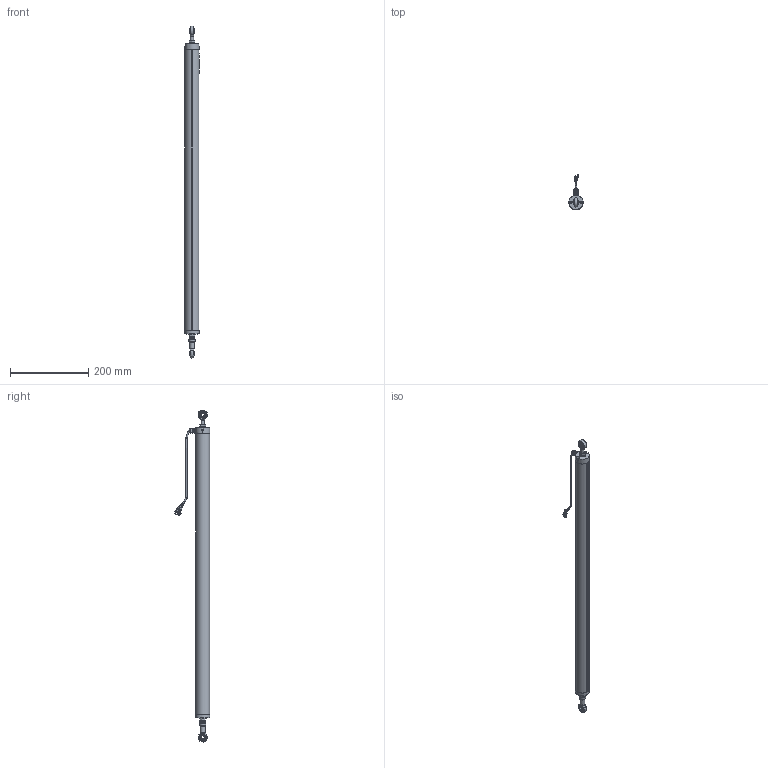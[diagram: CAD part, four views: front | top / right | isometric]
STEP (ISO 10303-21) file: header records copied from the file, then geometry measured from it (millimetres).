
FILE_DESCRIPTION(/* description */ (''),/* implementation_level */ '2;1');
FILE_NAME(/* name */ 'C:\Users\Justin\Documents\CAD\The Sensor Connection\LPPS\LPPS-36B Series\3D\LPPS-36B-650\LPPS 36B-650 Assembly.stp',/* time_stamp */ '2020-09-21T10:21:59-04:00',/* author */ ('Justin'),/* organization */ (''),/* preprocessor_version */ 'ST-DEVELOPER v18.1',/* originating_system */ 'Autodesk Inventor 2021',/* authorisation */ '');
FILE_SCHEMA (('AUTOMOTIVE_DESIGN { 1 0 10303 214 3 1 1 }'));
Length unit declared in the file: inch
Products named in the file (3): LPPS 36B-650 Assembly; LPPS 36B-650 Shaft_Shrinkwrap; LPPS 36B-650_Shrinkwrap
Assembly tree (2 placements, depth 2):
  LPPS 36B-650 Assembly
    LPPS 36B-650 Shaft_Shrinkwrap
    LPPS 36B-650_Shrinkwrap
Bounding box: 36.05 x 90.87 x 849.86 mm (x, y, z)
Volume: 249766.4 mm3; surface area: 212052.2 mm2
Topology: 27 solids, 27 shells, 1058 faces, 2601 edges, 1671 vertices
Faces by surface type: plane 468, cylinder 257, bspline 195, torus 73, cone 60, sphere 5
Full cylindrical faces by diameter (mm): 1.236 x3, 2.5 x2, 3 x6, 3.175 x3, 3.5 x5, 3.708 x1, 5 x3, 5.5 x1, 6 x2, 6.647 x1, 7 x3, 8 x11, 8.1 x1, 8.4 x1, 9 x1, 10 x1, 11 x1, 12.5 x1, 15 x4, 15.8 x1, 16 x1, 18.5 x3, 36 x1
Entity records: 37570 total; most frequent: CARTESIAN_POINT 12078, ORIENTED_EDGE 5202, DIRECTION 4715, EDGE_CURVE 2601, AXIS2_PLACEMENT_3D 1782, VERTEX_POINT 1671, EDGE_LOOP 1175, LINE 1151
